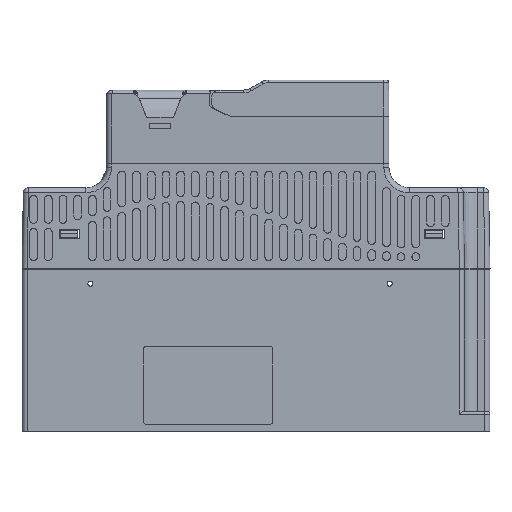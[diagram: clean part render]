
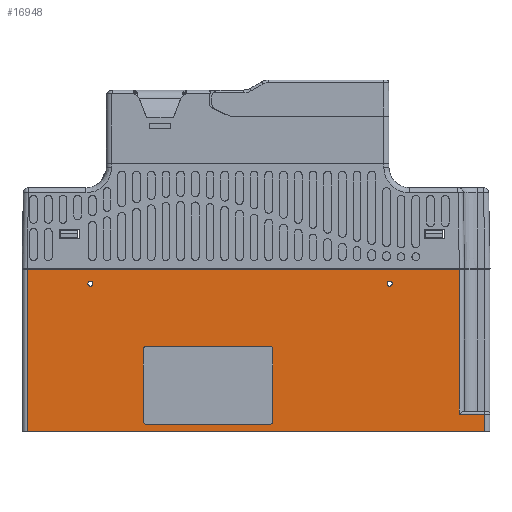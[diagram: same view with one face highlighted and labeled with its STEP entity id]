
A CAD part, left-side view. The second image highlights one B-rep face of the part: STEP entity #16948.
In plain terms, the highlighted planar face has unit normal (-1, 0, 0).
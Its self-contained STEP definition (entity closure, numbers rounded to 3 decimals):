
#777=DIRECTION('',(0.,0.,-1.));
#778=VECTOR('',#777,63.5);
#779=CARTESIAN_POINT('',(-50.,181.,63.5));
#780=LINE('',#779,#778);
#814=DIRECTION('',(0.,-1.,0.));
#815=VECTOR('',#814,169.);
#816=CARTESIAN_POINT('',(-50.,181.,63.5));
#817=LINE('',#816,#815);
#1564=DIRECTION('',(0.,1.,0.));
#1565=VECTOR('',#1564,10.);
#1566=CARTESIAN_POINT('',(-50.,2.,7.));
#1567=LINE('',#1566,#1565);
#1576=DIRECTION('',(0.,-1.,0.));
#1577=VECTOR('',#1576,179.);
#1578=CARTESIAN_POINT('',(-50.,181.,0.));
#1579=LINE('',#1578,#1577);
#1580=CARTESIAN_POINT('',(-50.,134.5,32.5));
#1581=DIRECTION('',(1.,0.,0.));
#1582=DIRECTION('',(0.,1.,0.));
#1583=AXIS2_PLACEMENT_3D('',#1580,#1581,#1582);
#1585=CARTESIAN_POINT('',(-50.,134.5,4.));
#1586=DIRECTION('',(1.,0.,0.));
#1587=DIRECTION('',(0.,0.,-1.));
#1588=AXIS2_PLACEMENT_3D('',#1585,#1586,#1587);
#1590=CARTESIAN_POINT('',(-50.,86.,4.));
#1591=DIRECTION('',(1.,0.,0.));
#1592=DIRECTION('',(0.,-1.,0.));
#1593=AXIS2_PLACEMENT_3D('',#1590,#1591,#1592);
#1595=CARTESIAN_POINT('',(-50.,86.,32.5));
#1596=DIRECTION('',(1.,0.,0.));
#1597=DIRECTION('',(0.,0.,1.));
#1598=AXIS2_PLACEMENT_3D('',#1595,#1596,#1597);
#1600=CARTESIAN_POINT('',(-50.,39.25,58.));
#1601=DIRECTION('',(1.,0.,0.));
#1602=DIRECTION('',(0.,1.,0.));
#1603=AXIS2_PLACEMENT_3D('',#1600,#1601,#1602);
#1605=CARTESIAN_POINT('',(-50.,39.25,58.));
#1606=DIRECTION('',(1.,0.,0.));
#1607=DIRECTION('',(0.,-1.,0.));
#1608=AXIS2_PLACEMENT_3D('',#1605,#1606,#1607);
#1610=CARTESIAN_POINT('',(-50.,156.25,58.));
#1611=DIRECTION('',(1.,0.,0.));
#1612=DIRECTION('',(0.,1.,0.));
#1613=AXIS2_PLACEMENT_3D('',#1610,#1611,#1612);
#1615=CARTESIAN_POINT('',(-50.,156.25,58.));
#1616=DIRECTION('',(1.,0.,0.));
#1617=DIRECTION('',(0.,-1.,0.));
#1618=AXIS2_PLACEMENT_3D('',#1615,#1616,#1617);
#1624=DIRECTION('',(0.,0.,1.));
#1625=VECTOR('',#1624,7.);
#1626=CARTESIAN_POINT('',(-50.,2.,0.));
#1627=LINE('',#1626,#1625);
#1628=DIRECTION('',(0.,0.,1.));
#1629=VECTOR('',#1628,56.5);
#1630=CARTESIAN_POINT('',(-50.,12.,7.));
#1631=LINE('',#1630,#1629);
#1668=DIRECTION('',(0.,-1.,0.));
#1669=VECTOR('',#1668,48.5);
#1670=CARTESIAN_POINT('',(-50.,134.5,33.5));
#1671=LINE('',#1670,#1669);
#1704=DIRECTION('',(0.,0.,-1.));
#1705=VECTOR('',#1704,28.5);
#1706=CARTESIAN_POINT('',(-50.,85.,32.5));
#1707=LINE('',#1706,#1705);
#1724=DIRECTION('',(0.,1.,0.));
#1725=VECTOR('',#1724,48.5);
#1726=CARTESIAN_POINT('',(-50.,86.,3.));
#1727=LINE('',#1726,#1725);
#1740=DIRECTION('',(0.,0.,1.));
#1741=VECTOR('',#1740,28.5);
#1742=CARTESIAN_POINT('',(-50.,135.5,4.));
#1743=LINE('',#1742,#1741);
#12100=CARTESIAN_POINT('',(-50.,181.,0.));
#12102=VERTEX_POINT('',#12100);
#12113=CARTESIAN_POINT('',(-50.,2.,0.));
#12114=VERTEX_POINT('',#12113);
#12373=CARTESIAN_POINT('',(-50.,181.,63.5));
#12374=VERTEX_POINT('',#12373);
#13096=CARTESIAN_POINT('',(-50.,2.,7.));
#13097=VERTEX_POINT('',#13096);
#13112=CARTESIAN_POINT('',(-50.,12.,7.));
#13113=VERTEX_POINT('',#13112);
#13114=CARTESIAN_POINT('',(-50.,12.,63.5));
#13115=VERTEX_POINT('',#13114);
#13116=CARTESIAN_POINT('',(-50.,134.5,33.5));
#13117=CARTESIAN_POINT('',(-50.,86.,33.5));
#13118=VERTEX_POINT('',#13116);
#13119=VERTEX_POINT('',#13117);
#13120=CARTESIAN_POINT('',(-50.,135.5,32.5));
#13121=VERTEX_POINT('',#13120);
#13122=CARTESIAN_POINT('',(-50.,135.5,4.));
#13123=VERTEX_POINT('',#13122);
#13124=CARTESIAN_POINT('',(-50.,134.5,3.));
#13125=VERTEX_POINT('',#13124);
#13126=CARTESIAN_POINT('',(-50.,86.,3.));
#13127=VERTEX_POINT('',#13126);
#13128=CARTESIAN_POINT('',(-50.,85.,4.));
#13129=VERTEX_POINT('',#13128);
#13130=CARTESIAN_POINT('',(-50.,85.,32.5));
#13131=VERTEX_POINT('',#13130);
#13132=CARTESIAN_POINT('',(-50.,40.25,58.));
#13133=CARTESIAN_POINT('',(-50.,38.25,58.));
#13134=VERTEX_POINT('',#13132);
#13135=VERTEX_POINT('',#13133);
#13136=CARTESIAN_POINT('',(-50.,157.25,58.));
#13137=CARTESIAN_POINT('',(-50.,155.25,58.));
#13138=VERTEX_POINT('',#13136);
#13139=VERTEX_POINT('',#13137);
#16903=CARTESIAN_POINT('',(-50.,91.5,31.75));
#16904=DIRECTION('',(1.,0.,0.));
#16905=DIRECTION('',(0.,-1.,0.));
#16906=AXIS2_PLACEMENT_3D('',#16903,#16904,#16905);
#16907=PLANE('',#16906);
#16908=ORIENTED_EDGE('',*,*,#16896,.F.);
#16910=ORIENTED_EDGE('',*,*,#16909,.F.);
#16911=ORIENTED_EDGE('',*,*,#15834,.F.);
#16912=ORIENTED_EDGE('',*,*,#16143,.F.);
#16913=ORIENTED_EDGE('',*,*,#16170,.T.);
#16915=ORIENTED_EDGE('',*,*,#16914,.F.);
#16916=EDGE_LOOP('',(#16908,#16910,#16911,#16912,#16913,#16915));
#16917=FACE_OUTER_BOUND('',#16916,.F.);
#16919=ORIENTED_EDGE('',*,*,#16918,.F.);
#16921=ORIENTED_EDGE('',*,*,#16920,.F.);
#16923=ORIENTED_EDGE('',*,*,#16922,.F.);
#16925=ORIENTED_EDGE('',*,*,#16924,.F.);
#16927=ORIENTED_EDGE('',*,*,#16926,.F.);
#16929=ORIENTED_EDGE('',*,*,#16928,.F.);
#16931=ORIENTED_EDGE('',*,*,#16930,.F.);
#16933=ORIENTED_EDGE('',*,*,#16932,.F.);
#16934=EDGE_LOOP('',(#16919,#16921,#16923,#16925,#16927,#16929,#16931,#16933));
#16935=FACE_BOUND('',#16934,.F.);
#16937=ORIENTED_EDGE('',*,*,#16936,.F.);
#16939=ORIENTED_EDGE('',*,*,#16938,.F.);
#16940=EDGE_LOOP('',(#16937,#16939));
#16941=FACE_BOUND('',#16940,.F.);
#16943=ORIENTED_EDGE('',*,*,#16942,.F.);
#16945=ORIENTED_EDGE('',*,*,#16944,.F.);
#16946=EDGE_LOOP('',(#16943,#16945));
#16947=FACE_BOUND('',#16946,.F.);
#1584=CIRCLE('',#1583,1.);
#1589=CIRCLE('',#1588,1.);
#1594=CIRCLE('',#1593,1.);
#1599=CIRCLE('',#1598,1.);
#1604=CIRCLE('',#1603,1.);
#1609=CIRCLE('',#1608,1.);
#1614=CIRCLE('',#1613,1.);
#1619=CIRCLE('',#1618,1.);
#15834=EDGE_CURVE('',#12102,#12114,#1579,.T.);
#16143=EDGE_CURVE('',#12374,#12102,#780,.T.);
#16170=EDGE_CURVE('',#12374,#13115,#817,.T.);
#16896=EDGE_CURVE('',#13097,#13113,#1567,.T.);
#16909=EDGE_CURVE('',#12114,#13097,#1627,.T.);
#16914=EDGE_CURVE('',#13113,#13115,#1631,.T.);
#16918=EDGE_CURVE('',#13118,#13119,#1671,.T.);
#16920=EDGE_CURVE('',#13121,#13118,#1584,.T.);
#16922=EDGE_CURVE('',#13123,#13121,#1743,.T.);
#16924=EDGE_CURVE('',#13125,#13123,#1589,.T.);
#16926=EDGE_CURVE('',#13127,#13125,#1727,.T.);
#16928=EDGE_CURVE('',#13129,#13127,#1594,.T.);
#16930=EDGE_CURVE('',#13131,#13129,#1707,.T.);
#16932=EDGE_CURVE('',#13119,#13131,#1599,.T.);
#16936=EDGE_CURVE('',#13134,#13135,#1604,.T.);
#16938=EDGE_CURVE('',#13135,#13134,#1609,.T.);
#16942=EDGE_CURVE('',#13138,#13139,#1614,.T.);
#16944=EDGE_CURVE('',#13139,#13138,#1619,.T.);
#16948=ADVANCED_FACE('',(#16917,#16935,#16941,#16947),#16907,.F.);
